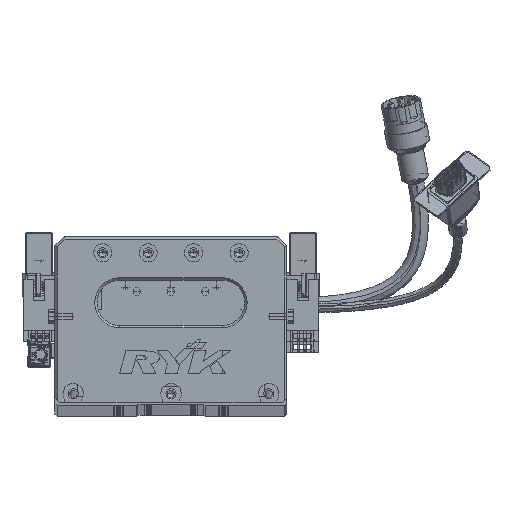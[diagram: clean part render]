
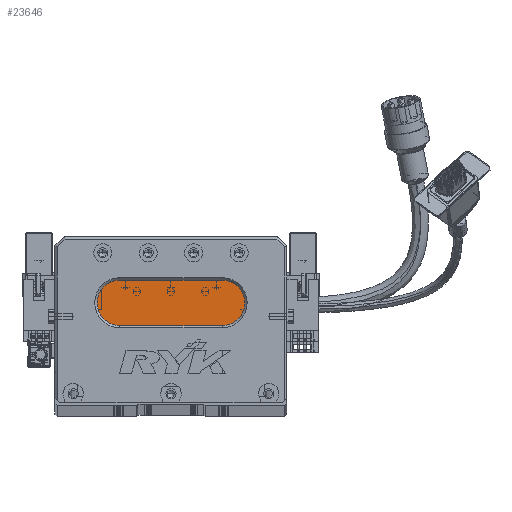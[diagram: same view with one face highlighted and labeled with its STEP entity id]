
A CAD part, top view. The second image highlights one B-rep face of the part: STEP entity #23646.
In plain terms, the highlighted planar face has unit normal (0, 0, 1) as drawn and (0, 0, -1) by its records, which use the part's own axes.
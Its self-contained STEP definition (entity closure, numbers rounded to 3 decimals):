
#1844 = CARTESIAN_POINT ( 'NONE',  ( 73.5, 44., 13. ) ) ;
#4986 = ORIENTED_EDGE ( 'NONE', *, *, #14648, .T. ) ;
#5259 = CARTESIAN_POINT ( 'NONE',  ( 18.5, 44., 13. ) ) ;
#5561 = DIRECTION ( 'NONE',  ( -1., 0., 0. ) ) ;
#6873 = CARTESIAN_POINT ( 'NONE',  ( 73.5, 34., 13. ) ) ;
#7400 = VECTOR ( 'NONE', #52639, 1000. ) ;
#14443 = CIRCLE ( 'NONE', #43101, 10. ) ;
#14648 = EDGE_CURVE ( 'NONE', #83305, #18724, #61932, .T. ) ;
#17860 = DIRECTION ( 'NONE',  ( 0., 0., -1. ) ) ;
#18708 = DIRECTION ( 'NONE',  ( 0., 0., -1. ) ) ;
#18724 = VERTEX_POINT ( 'NONE', #34952 ) ;
#19629 = LINE ( 'NONE', #6873, #33479 ) ;
#23646 = ADVANCED_FACE ( 'NONE', ( #37085 ), #71889, .T. ) ;
#25739 = EDGE_CURVE ( 'NONE', #46954, #43235, #19629, .T. ) ;
#26470 = CARTESIAN_POINT ( 'NONE',  ( 28.5, 44., 13. ) ) ;
#27932 = ORIENTED_EDGE ( 'NONE', *, *, #84292, .T. ) ;
#28201 = CARTESIAN_POINT ( 'NONE',  ( 28.5, 54., 13. ) ) ;
#28997 = DIRECTION ( 'NONE',  ( 0., 0., -1. ) ) ;
#29596 = DIRECTION ( 'NONE',  ( -1., 0., 0. ) ) ;
#33339 = CIRCLE ( 'NONE', #78134, 10. ) ;
#33479 = VECTOR ( 'NONE', #54671, 1000. ) ;
#34952 = CARTESIAN_POINT ( 'NONE',  ( 73.5, 54., 13. ) ) ;
#35172 = DIRECTION ( 'NONE',  ( 0., 0., -1. ) ) ;
#36646 = EDGE_LOOP ( 'NONE', ( #69011, #49014, #27932, #64875, #4986 ) ) ;
#37085 = FACE_OUTER_BOUND ( 'NONE', #36646, .T. ) ;
#41138 = DIRECTION ( 'NONE',  ( -1., 0., 0. ) ) ;
#43101 = AXIS2_PLACEMENT_3D ( 'NONE', #60590, #35172, #41138 ) ;
#43235 = VERTEX_POINT ( 'NONE', #52761 ) ;
#44290 = AXIS2_PLACEMENT_3D ( 'NONE', #1844, #28997, #29596 ) ;
#44411 = DIRECTION ( 'NONE',  ( -1., 0., 0. ) ) ;
#46533 = CARTESIAN_POINT ( 'NONE',  ( 73.5, 34., 13. ) ) ;
#46954 = VERTEX_POINT ( 'NONE', #46533 ) ;
#49014 = ORIENTED_EDGE ( 'NONE', *, *, #25739, .T. ) ;
#51884 = CARTESIAN_POINT ( 'NONE',  ( 73.5, 44., 13. ) ) ;
#52639 = DIRECTION ( 'NONE',  ( 1., 0., 0. ) ) ;
#52761 = CARTESIAN_POINT ( 'NONE',  ( 28.5, 34., 13. ) ) ;
#54671 = DIRECTION ( 'NONE',  ( -1., 0., 0. ) ) ;
#54855 = CIRCLE ( 'NONE', #44290, 10. ) ;
#57266 = EDGE_CURVE ( 'NONE', #72571, #83305, #33339, .T. ) ;
#60590 = CARTESIAN_POINT ( 'NONE',  ( 28.5, 44., 13. ) ) ;
#61932 = LINE ( 'NONE', #81006, #7400 ) ;
#64875 = ORIENTED_EDGE ( 'NONE', *, *, #57266, .T. ) ;
#66606 = EDGE_CURVE ( 'NONE', #18724, #46954, #54855, .T. ) ;
#69011 = ORIENTED_EDGE ( 'NONE', *, *, #66606, .T. ) ;
#71889 = PLANE ( 'NONE',  #74275 ) ;
#72571 = VERTEX_POINT ( 'NONE', #5259 ) ;
#74275 = AXIS2_PLACEMENT_3D ( 'NONE', #51884, #17860, #44411 ) ;
#78134 = AXIS2_PLACEMENT_3D ( 'NONE', #26470, #18708, #5561 ) ;
#81006 = CARTESIAN_POINT ( 'NONE',  ( 73.5, 54., 13. ) ) ;
#83305 = VERTEX_POINT ( 'NONE', #28201 ) ;
#84292 = EDGE_CURVE ( 'NONE', #43235, #72571, #14443, .T. ) ;
